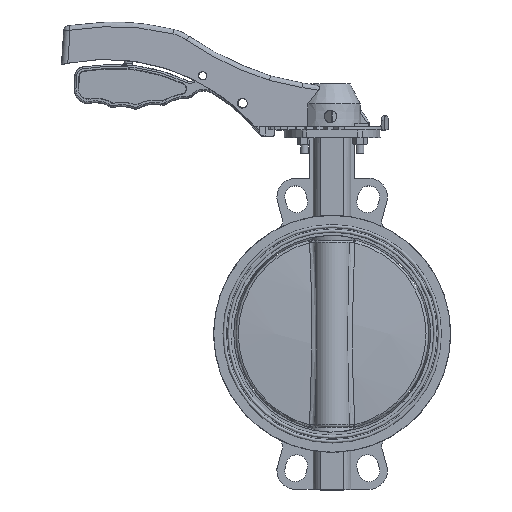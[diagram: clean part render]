
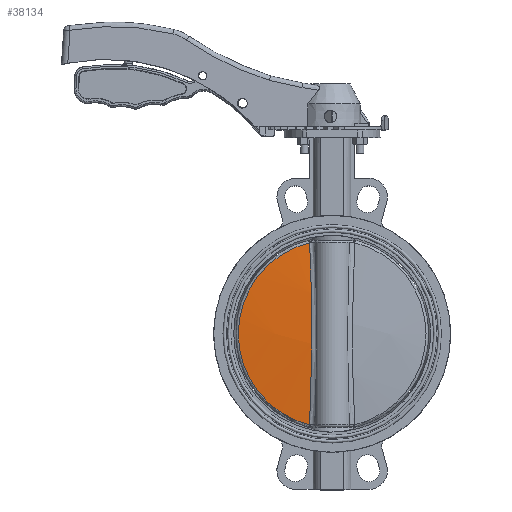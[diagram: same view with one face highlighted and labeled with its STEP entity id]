
A CAD part, top view. The second image highlights one B-rep face of the part: STEP entity #38134.
In plain terms, the highlighted spherical face has radius 1309.25 mm.
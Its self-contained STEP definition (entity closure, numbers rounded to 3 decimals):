
#63 = CARTESIAN_POINT ( 'NONE',  ( -26.254, 33.998, 10.17 ) ) ;
#410 = CARTESIAN_POINT ( 'NONE',  ( -25.94, -25.291, 10.624 ) ) ;
#728 = VERTEX_POINT ( 'NONE', #40456 ) ;
#1128 = CARTESIAN_POINT ( 'NONE',  ( -26.254, -45.055, 10.17 ) ) ;
#5536 = CARTESIAN_POINT ( 'NONE',  ( -28.565, -114.135, 6.205 ) ) ;
#6470 = EDGE_LOOP ( 'NONE', ( #25177, #12393 ) ) ;
#10665 = DIRECTION ( 'NONE',  ( -1., 0., 0. ) ) ;
#11659 = CARTESIAN_POINT ( 'NONE',  ( -28.159, -104.283, 6.996 ) ) ;
#12393 = ORIENTED_EDGE ( 'NONE', *, *, #56578, .T. ) ;
#17777 = CARTESIAN_POINT ( 'NONE',  ( -25.776, -5.528, 10.851 ) ) ;
#20766 = AXIS2_PLACEMENT_3D ( 'NONE', #60599, #49709, #66810 ) ;
#23582 = CARTESIAN_POINT ( 'NONE',  ( -27.408, -84.564, 8.355 ) ) ;
#25177 = ORIENTED_EDGE ( 'NONE', *, *, #37368, .T. ) ;
#33116 = CARTESIAN_POINT ( 'NONE',  ( -28.159, 93.226, 6.996 ) ) ;
#33825 = CARTESIAN_POINT ( 'NONE',  ( -27.063, 63.638, 8.922 ) ) ;
#33911 = CARTESIAN_POINT ( 'NONE',  ( 0.354, -5.528, 5.301 ) ) ;
#36899 = CARTESIAN_POINT ( 'NONE',  ( -28.972, -123.979, 5.301 ) ) ;
#37368 = EDGE_CURVE ( 'NONE', #728, #51911, #69556, .T. ) ;
#37633 = SPHERICAL_SURFACE ( 'NONE', #20766, 1309.253 ) ;
#38134 = ADVANCED_FACE ( 'NONE', ( #54801 ), #37633, .T. ) ;
#39609 = CARTESIAN_POINT ( 'NONE',  ( -27.408, 73.506, 8.355 ) ) ;
#39903 = B_SPLINE_CURVE_WITH_KNOTS ( 'NONE', 3,
 ( #55327, #5536, #11659, #23582, #61846, #49871, #1128, #410, #17777, #40315, #63, #44762, #33825, #39609, #33116, #62578, #45504 ),
 .UNSPECIFIED., .F., .F.,
 ( 4, 2, 2, 2, 1, 2, 2, 2, 4 ),
 ( 0., 0.03, 0.059, 0.089, 0.119, 0.148, 0.178, 0.208, 0.237 ),
 .UNSPECIFIED. ) ;
#40315 = CARTESIAN_POINT ( 'NONE',  ( -25.94, 14.235, 10.624 ) ) ;
#40456 = CARTESIAN_POINT ( 'NONE',  ( -28.972, 112.922, 5.301 ) ) ;
#44762 = CARTESIAN_POINT ( 'NONE',  ( -26.486, 43.881, 9.829 ) ) ;
#45504 = CARTESIAN_POINT ( 'NONE',  ( -28.972, 112.922, 5.301 ) ) ;
#49709 = DIRECTION ( 'NONE',  ( 0., 1., 0. ) ) ;
#49871 = CARTESIAN_POINT ( 'NONE',  ( -26.486, -54.939, 9.829 ) ) ;
#51911 = VERTEX_POINT ( 'NONE', #36899 ) ;
#54801 = FACE_OUTER_BOUND ( 'NONE', #6470, .T. ) ;
#55327 = CARTESIAN_POINT ( 'NONE',  ( -28.972, -123.979, 5.301 ) ) ;
#56578 = EDGE_CURVE ( 'NONE', #51911, #728, #39903, .T. ) ;
#60496 = DIRECTION ( 'NONE',  ( 0., 0., 1. ) ) ;
#60599 = CARTESIAN_POINT ( 'NONE',  ( 0.354, -5.528, -1298.253 ) ) ;
#61427 = AXIS2_PLACEMENT_3D ( 'NONE', #33911, #60496, #10665 ) ;
#61846 = CARTESIAN_POINT ( 'NONE',  ( -27.063, -74.695, 8.922 ) ) ;
#62578 = CARTESIAN_POINT ( 'NONE',  ( -28.565, 103.078, 6.205 ) ) ;
#66810 = DIRECTION ( 'NONE',  ( -1., 0., 0. ) ) ;
#69556 = CIRCLE ( 'NONE', #61427, 122.026 ) ;
